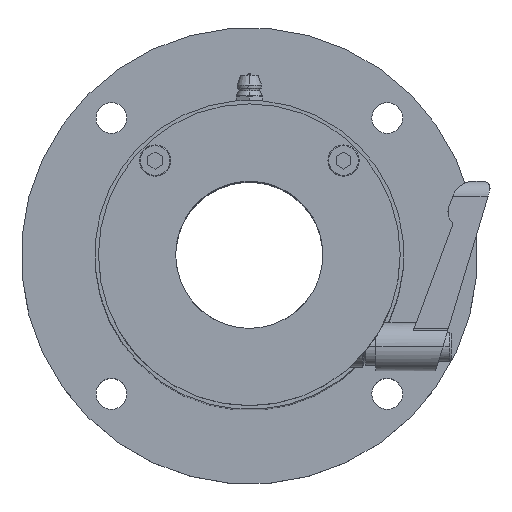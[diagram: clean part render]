
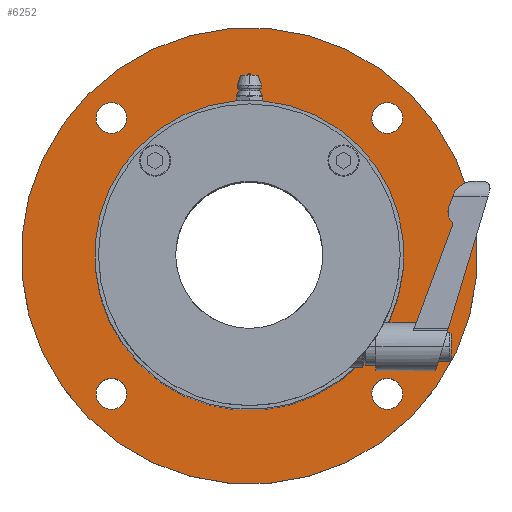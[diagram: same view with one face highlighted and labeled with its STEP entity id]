
A CAD part, top view. The second image highlights one B-rep face of the part: STEP entity #6252.
In plain terms, the highlighted planar face has unit normal (0, 0, 1).
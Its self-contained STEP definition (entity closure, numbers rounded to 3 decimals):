
#8 = AXIS2_PLACEMENT_3D ( 'NONE', #4693, #7944, #8048 ) ;
#60 = CIRCLE ( 'NONE', #2636, 4.188 ) ;
#68 = EDGE_CURVE ( 'NONE', #1767, #5460, #6372, .T. ) ;
#86 = AXIS2_PLACEMENT_3D ( 'NONE', #8601, #5298, #6152 ) ;
#184 = CARTESIAN_POINT ( 'NONE',  ( 27.055, 31.056, 103. ) ) ;
#190 = VERTEX_POINT ( 'NONE', #7314 ) ;
#204 = CIRCLE ( 'NONE', #1927, 4.188 ) ;
#281 = ORIENTED_EDGE ( 'NONE', *, *, #8560, .T. ) ;
#327 = CARTESIAN_POINT ( 'NONE',  ( 30.016, -40.936, 103. ) ) ;
#407 = CARTESIAN_POINT ( 'NONE',  ( -47.899, 31.056, 103. ) ) ;
#533 = CARTESIAN_POINT ( 'NONE',  ( -10.422, -6.421, 103. ) ) ;
#638 = PLANE ( 'NONE',  #3193 ) ;
#669 = ORIENTED_EDGE ( 'NONE', *, *, #9136, .T. ) ;
#804 = EDGE_CURVE ( 'NONE', #3282, #4180, #9958, .T. ) ;
#867 = DIRECTION ( 'NONE',  ( -0.707, -0.707, 0. ) ) ;
#911 = AXIS2_PLACEMENT_3D ( 'NONE', #5035, #939, #6568 ) ;
#939 = DIRECTION ( 'NONE',  ( 0., 0., -1. ) ) ;
#966 = CARTESIAN_POINT ( 'NONE',  ( -50.86, 28.095, 103. ) ) ;
#1000 = VERTEX_POINT ( 'NONE', #327 ) ;
#1079 = DIRECTION ( 'NONE',  ( 0., 0., -1. ) ) ;
#1183 = EDGE_LOOP ( 'NONE', ( #669, #1755 ) ) ;
#1405 = DIRECTION ( 'NONE',  ( 0.707, 0.707, 0. ) ) ;
#1443 = FACE_BOUND ( 'NONE', #1183, .T. ) ;
#1518 = CARTESIAN_POINT ( 'NONE',  ( -47.899, 31.056, 103. ) ) ;
#1565 = CARTESIAN_POINT ( 'NONE',  ( -10.422, -6.421, 103. ) ) ;
#1732 = DIRECTION ( 'NONE',  ( 0.707, 0.707, 0. ) ) ;
#1755 = ORIENTED_EDGE ( 'NONE', *, *, #9331, .T. ) ;
#1767 = VERTEX_POINT ( 'NONE', #3998 ) ;
#1813 = VERTEX_POINT ( 'NONE', #2122 ) ;
#1904 = EDGE_LOOP ( 'NONE', ( #281, #2647 ) ) ;
#1918 = CIRCLE ( 'NONE', #3980, 42. ) ;
#1927 = AXIS2_PLACEMENT_3D ( 'NONE', #4599, #10603, #867 ) ;
#2122 = CARTESIAN_POINT ( 'NONE',  ( 24.093, -46.859, 103. ) ) ;
#2158 = VERTEX_POINT ( 'NONE', #8321 ) ;
#2636 = AXIS2_PLACEMENT_3D ( 'NONE', #6106, #8797, #5614 ) ;
#2647 = ORIENTED_EDGE ( 'NONE', *, *, #9589, .T. ) ;
#2709 = EDGE_CURVE ( 'NONE', #4180, #3282, #7803, .T. ) ;
#3085 = AXIS2_PLACEMENT_3D ( 'NONE', #407, #10403, #3727 ) ;
#3106 = FACE_OUTER_BOUND ( 'NONE', #5251, .T. ) ;
#3193 = AXIS2_PLACEMENT_3D ( 'NONE', #3920, #6394, #5653 ) ;
#3263 = CARTESIAN_POINT ( 'NONE',  ( 19.277, 23.278, 103. ) ) ;
#3282 = VERTEX_POINT ( 'NONE', #9043 ) ;
#3603 = DIRECTION ( 'NONE',  ( -0.707, -0.707, 0. ) ) ;
#3727 = DIRECTION ( 'NONE',  ( 0.707, 0.707, 0. ) ) ;
#3808 = DIRECTION ( 'NONE',  ( 0., 0., -1. ) ) ;
#3818 = FACE_BOUND ( 'NONE', #4024, .T. ) ;
#3920 = CARTESIAN_POINT ( 'NONE',  ( 26.348, 30.349, 103. ) ) ;
#3980 = AXIS2_PLACEMENT_3D ( 'NONE', #533, #3808, #6925 ) ;
#3998 = CARTESIAN_POINT ( 'NONE',  ( -54.263, -50.261, 103. ) ) ;
#4017 = CIRCLE ( 'NONE', #4204, 4.188 ) ;
#4024 = EDGE_LOOP ( 'NONE', ( #7707, #5098 ) ) ;
#4123 = VERTEX_POINT ( 'NONE', #4840 ) ;
#4180 = VERTEX_POINT ( 'NONE', #966 ) ;
#4204 = AXIS2_PLACEMENT_3D ( 'NONE', #7374, #1079, #3603 ) ;
#4261 = ORIENTED_EDGE ( 'NONE', *, *, #2709, .T. ) ;
#4599 = CARTESIAN_POINT ( 'NONE',  ( 27.055, -43.897, 103. ) ) ;
#4611 = CIRCLE ( 'NONE', #7347, 42. ) ;
#4693 = CARTESIAN_POINT ( 'NONE',  ( -10.422, -6.421, 103. ) ) ;
#4840 = CARTESIAN_POINT ( 'NONE',  ( -50.86, -40.936, 103. ) ) ;
#4909 = ORIENTED_EDGE ( 'NONE', *, *, #7806, .T. ) ;
#4994 = DIRECTION ( 'NONE',  ( 0., 0., -1. ) ) ;
#5035 = CARTESIAN_POINT ( 'NONE',  ( -47.899, -43.897, 103. ) ) ;
#5044 = AXIS2_PLACEMENT_3D ( 'NONE', #184, #4994, #7400 ) ;
#5098 = ORIENTED_EDGE ( 'NONE', *, *, #10320, .T. ) ;
#5251 = EDGE_LOOP ( 'NONE', ( #8644, #8354 ) ) ;
#5298 = DIRECTION ( 'NONE',  ( 0., 0., -1. ) ) ;
#5460 = VERTEX_POINT ( 'NONE', #7219 ) ;
#5552 = FACE_BOUND ( 'NONE', #1904, .T. ) ;
#5614 = DIRECTION ( 'NONE',  ( -0.707, 0.707, 0. ) ) ;
#5653 = DIRECTION ( 'NONE',  ( 0.707, -0.707, 0. ) ) ;
#5774 = CARTESIAN_POINT ( 'NONE',  ( 24.093, 34.017, 103. ) ) ;
#6106 = CARTESIAN_POINT ( 'NONE',  ( -47.899, -43.897, 103. ) ) ;
#6152 = DIRECTION ( 'NONE',  ( 0.707, -0.707, 0. ) ) ;
#6252 = ADVANCED_FACE ( 'NONE', ( #3106, #5552, #1443, #6453, #3818, #7088 ), #638, .T. ) ;
#6372 = CIRCLE ( 'NONE', #8, 62. ) ;
#6394 = DIRECTION ( 'NONE',  ( 0., 0., 1. ) ) ;
#6453 = FACE_BOUND ( 'NONE', #9374, .T. ) ;
#6568 = DIRECTION ( 'NONE',  ( -0.707, 0.707, 0. ) ) ;
#6925 = DIRECTION ( 'NONE',  ( 0.707, 0.707, 0. ) ) ;
#7088 = FACE_BOUND ( 'NONE', #9871, .T. ) ;
#7219 = CARTESIAN_POINT ( 'NONE',  ( 33.419, 37.42, 103. ) ) ;
#7314 = CARTESIAN_POINT ( 'NONE',  ( 30.016, 28.095, 103. ) ) ;
#7347 = AXIS2_PLACEMENT_3D ( 'NONE', #1565, #9078, #1732 ) ;
#7374 = CARTESIAN_POINT ( 'NONE',  ( 27.055, -43.897, 103. ) ) ;
#7400 = DIRECTION ( 'NONE',  ( 0.707, -0.707, 0. ) ) ;
#7658 = ORIENTED_EDGE ( 'NONE', *, *, #8260, .T. ) ;
#7707 = ORIENTED_EDGE ( 'NONE', *, *, #8903, .T. ) ;
#7803 = CIRCLE ( 'NONE', #8495, 4.188 ) ;
#7806 = EDGE_CURVE ( 'NONE', #7930, #9806, #4611, .T. ) ;
#7857 = CARTESIAN_POINT ( 'NONE',  ( -10.422, -6.421, 103. ) ) ;
#7930 = VERTEX_POINT ( 'NONE', #8441 ) ;
#7944 = DIRECTION ( 'NONE',  ( 0., 0., -1. ) ) ;
#8048 = DIRECTION ( 'NONE',  ( 0.707, 0.707, 0. ) ) ;
#8260 = EDGE_CURVE ( 'NONE', #9806, #7930, #1918, .T. ) ;
#8286 = AXIS2_PLACEMENT_3D ( 'NONE', #7857, #9620, #1405 ) ;
#8321 = CARTESIAN_POINT ( 'NONE',  ( -44.937, -46.859, 103. ) ) ;
#8354 = ORIENTED_EDGE ( 'NONE', *, *, #68, .F. ) ;
#8441 = CARTESIAN_POINT ( 'NONE',  ( -40.12, -36.119, 103. ) ) ;
#8459 = CIRCLE ( 'NONE', #5044, 4.188 ) ;
#8495 = AXIS2_PLACEMENT_3D ( 'NONE', #1518, #8921, #9784 ) ;
#8560 = EDGE_CURVE ( 'NONE', #1813, #1000, #204, .T. ) ;
#8601 = CARTESIAN_POINT ( 'NONE',  ( 27.055, 31.056, 103. ) ) ;
#8644 = ORIENTED_EDGE ( 'NONE', *, *, #9395, .F. ) ;
#8684 = ORIENTED_EDGE ( 'NONE', *, *, #804, .T. ) ;
#8797 = DIRECTION ( 'NONE',  ( 0., 0., -1. ) ) ;
#8903 = EDGE_CURVE ( 'NONE', #190, #9494, #8459, .T. ) ;
#8921 = DIRECTION ( 'NONE',  ( 0., 0., -1. ) ) ;
#9043 = CARTESIAN_POINT ( 'NONE',  ( -44.937, 34.017, 103. ) ) ;
#9078 = DIRECTION ( 'NONE',  ( 0., 0., -1. ) ) ;
#9136 = EDGE_CURVE ( 'NONE', #4123, #2158, #9825, .T. ) ;
#9331 = EDGE_CURVE ( 'NONE', #2158, #4123, #60, .T. ) ;
#9345 = CIRCLE ( 'NONE', #86, 4.188 ) ;
#9374 = EDGE_LOOP ( 'NONE', ( #8684, #4261 ) ) ;
#9395 = EDGE_CURVE ( 'NONE', #5460, #1767, #9834, .T. ) ;
#9494 = VERTEX_POINT ( 'NONE', #5774 ) ;
#9589 = EDGE_CURVE ( 'NONE', #1000, #1813, #4017, .T. ) ;
#9620 = DIRECTION ( 'NONE',  ( 0., 0., -1. ) ) ;
#9784 = DIRECTION ( 'NONE',  ( 0.707, 0.707, 0. ) ) ;
#9806 = VERTEX_POINT ( 'NONE', #3263 ) ;
#9825 = CIRCLE ( 'NONE', #911, 4.188 ) ;
#9834 = CIRCLE ( 'NONE', #8286, 62. ) ;
#9871 = EDGE_LOOP ( 'NONE', ( #7658, #4909 ) ) ;
#9958 = CIRCLE ( 'NONE', #3085, 4.188 ) ;
#10320 = EDGE_CURVE ( 'NONE', #9494, #190, #9345, .T. ) ;
#10403 = DIRECTION ( 'NONE',  ( 0., 0., -1. ) ) ;
#10603 = DIRECTION ( 'NONE',  ( 0., 0., -1. ) ) ;
